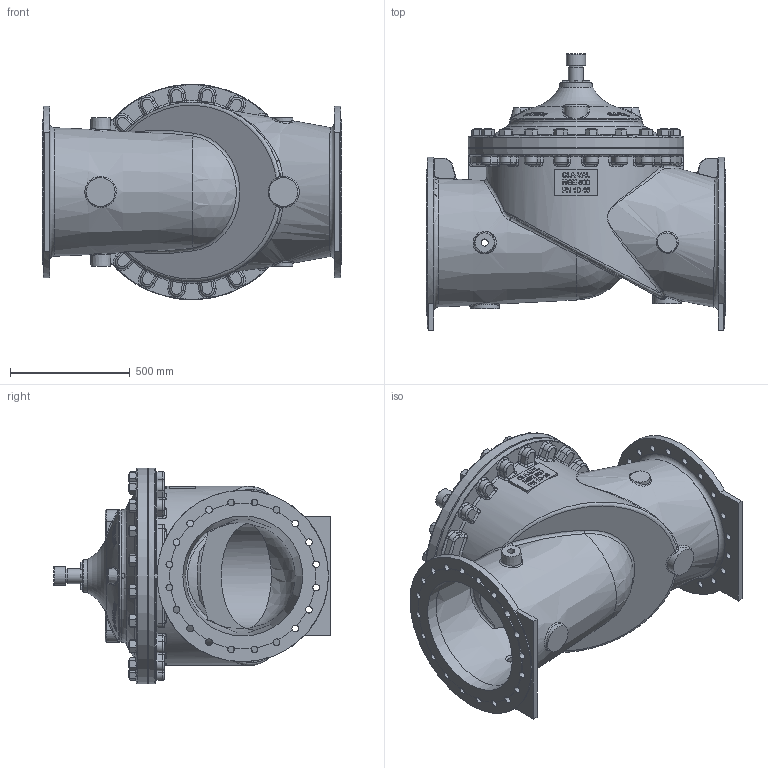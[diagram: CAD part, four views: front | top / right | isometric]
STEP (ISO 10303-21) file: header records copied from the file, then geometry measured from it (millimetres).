
FILE_DESCRIPTION(/* description */ (''),/* implementation_level */ '2;1');
FILE_NAME(/* name */ 'G:\Doc_Liberes\SymbolesCAD\Modeles_3D\FichierSTP\VanneDeBase\NGE500-10RF.stp',/* time_stamp */ '2023-08-17T10:51:48+02:00',/* author */ ('theo'),/* organization */ (''),/* preprocessor_version */ 'ST-DEVELOPER v18.1',/* originating_system */ 'Autodesk Inventor 2022',/* authorisation */ '');
FILE_SCHEMA (('AUTOMOTIVE_DESIGN { 1 0 10303 214 3 1 1 }'));
Products named in the file (1): nge500-10_Simplifier_1
Bounding box: 1250 x 1153.45 x 900 mm (x, y, z)
Volume: 106399657.6 mm3; surface area: 9141807.9 mm2
Topology: 1 solids, 1 shells, 2888 faces, 7656 edges, 4866 vertices
Faces by surface type: plane 1137, cone 936, cylinder 362, bspline 256, torus 130, sphere 67
Full cylindrical faces by diameter (mm): 14.287 x8, 20.637 x8, 22.05 x4, 28 x40, 30.29 x2, 31.75 x40, 35 x20, 60.3 x1, 63.5 x21, 66.68 x1, 80 x1, 120 x2, 134.9 x1, 440 x1, 474 x1, 495 x1, 500 x2, 520.5 x1, 521 x1, 552 x1, 715 x2, 879.25 x1, 881.9 x1, 899 x1, 900 x1
Entity records: 104734 total; most frequent: CARTESIAN_POINT 35912, ORIENTED_EDGE 15298, DIRECTION 14050, EDGE_CURVE 7649, AXIS2_PLACEMENT_3D 6241, VERTEX_POINT 4867, CIRCLE 3565, EDGE_LOOP 3132
